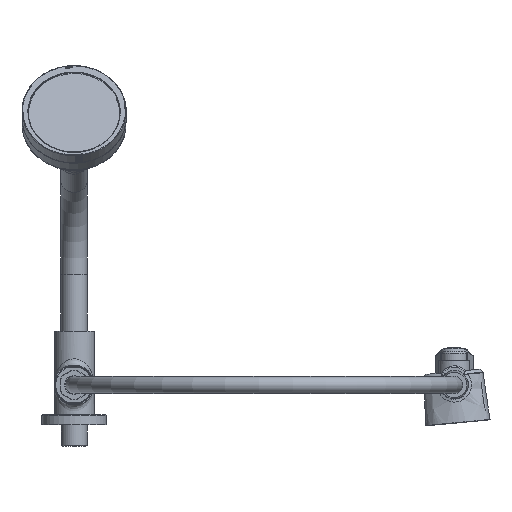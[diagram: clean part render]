
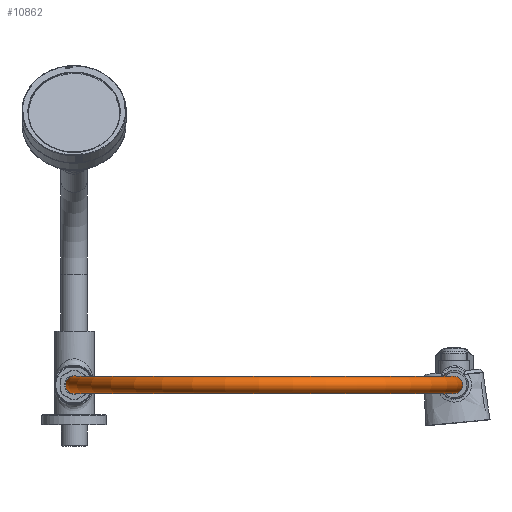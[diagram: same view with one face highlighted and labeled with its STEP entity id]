
A CAD part, front view. The second image highlights one B-rep face of the part: STEP entity #10862.
In plain terms, the highlighted toroidal (fillet/blend) face has major radius 150 mm and minor radius 6.75 mm.
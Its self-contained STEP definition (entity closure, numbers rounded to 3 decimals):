
#274 = FACE_OUTER_BOUND ( 'NONE', #9465, .T. ) ;
#599 = TOROIDAL_SURFACE ( 'NONE', #11294, 150., 6.75 ) ;
#912 = DIRECTION ( 'NONE',  ( 0., -1., 0. ) ) ;
#2202 = CIRCLE ( 'NONE', #9552, 6.75 ) ;
#2717 = EDGE_LOOP ( 'NONE', ( #5494 ) ) ;
#3096 = CARTESIAN_POINT ( 'NONE',  ( -164.116, -1389.503, 244.657 ) ) ;
#3652 = ORIENTED_EDGE ( 'NONE', *, *, #7248, .T. ) ;
#4624 = CIRCLE ( 'NONE', #6412, 6.75 ) ;
#5494 = ORIENTED_EDGE ( 'NONE', *, *, #12884, .F. ) ;
#5533 = CARTESIAN_POINT ( 'NONE',  ( -164.116, -1389.503, 251.407 ) ) ;
#6305 = VERTEX_POINT ( 'NONE', #3096 ) ;
#6412 = AXIS2_PLACEMENT_3D ( 'NONE', #6989, #912, #7997 ) ;
#6550 = DIRECTION ( 'NONE',  ( 0., 0., -1. ) ) ;
#6989 = CARTESIAN_POINT ( 'NONE',  ( -464.116, -1389.503, 251.407 ) ) ;
#7055 = CARTESIAN_POINT ( 'NONE',  ( -464.116, -1389.503, 244.657 ) ) ;
#7248 = EDGE_CURVE ( 'NONE', #10858, #10858, #4624, .T. ) ;
#7997 = DIRECTION ( 'NONE',  ( 0., 0., -1. ) ) ;
#8039 = FACE_OUTER_BOUND ( 'NONE', #2717, .T. ) ;
#8703 = DIRECTION ( 'NONE',  ( 0., 0., 1. ) ) ;
#9465 = EDGE_LOOP ( 'NONE', ( #3652 ) ) ;
#9552 = AXIS2_PLACEMENT_3D ( 'NONE', #5533, #12574, #6550 ) ;
#10858 = VERTEX_POINT ( 'NONE', #7055 ) ;
#10862 = ADVANCED_FACE ( 'NONE', ( #274, #8039 ), #599, .T. ) ;
#11294 = AXIS2_PLACEMENT_3D ( 'NONE', #11727, #8703, #12762 ) ;
#11727 = CARTESIAN_POINT ( 'NONE',  ( -314.116, -1389.503, 251.407 ) ) ;
#12574 = DIRECTION ( 'NONE',  ( 0., 1., 0. ) ) ;
#12762 = DIRECTION ( 'NONE',  ( 1., 0., 0. ) ) ;
#12884 = EDGE_CURVE ( 'NONE', #6305, #6305, #2202, .T. ) ;
